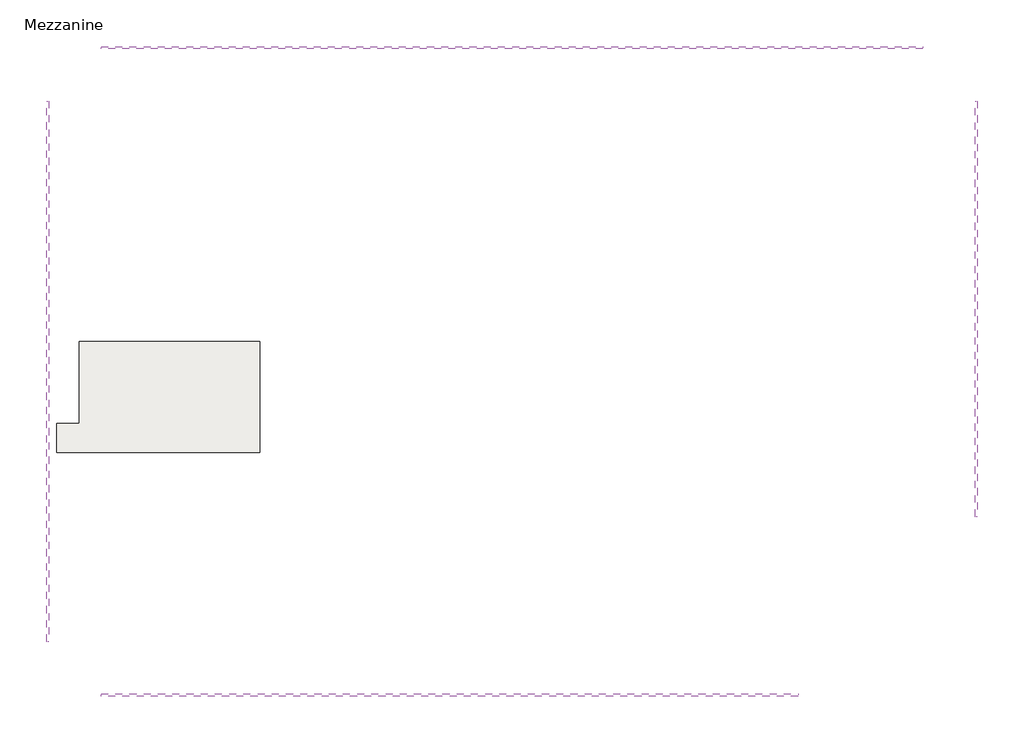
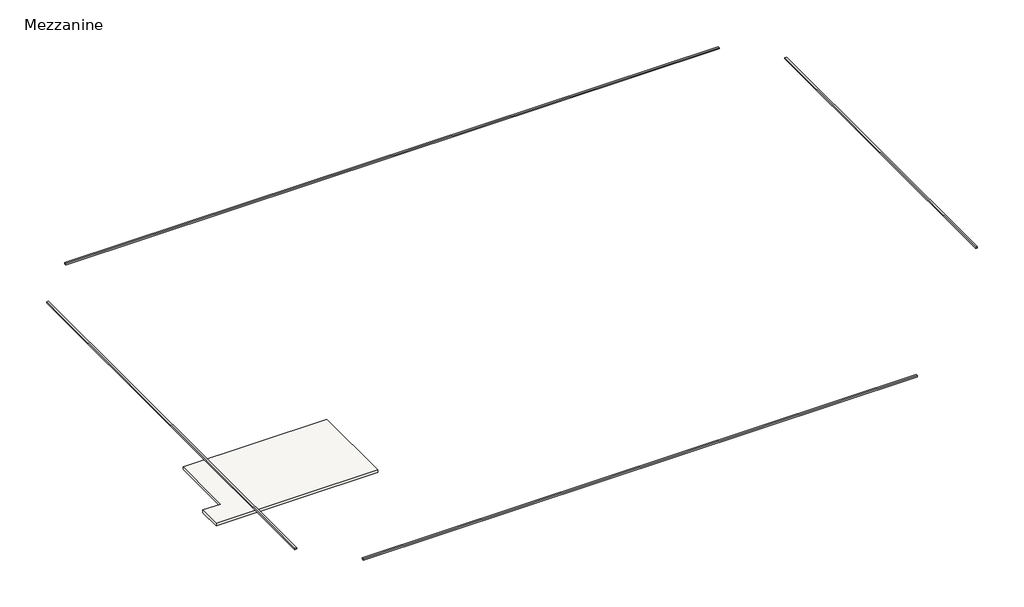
# One storey: 4 proxies, 1 slab.
"""IFC4 building model written with IfcOpenShell, lengths in millimetres."""

from ifc_helpers import new_model, si_unit, frame, origin, place, context, project, spatial, polyline, outline, extrude, element, save

model = new_model("IFC4")

# Units and contexts
model_context = context("Model", 3, world=origin())
ifc_project = project(units=[si_unit("LENGTHUNIT", "METRE", prefix="MILLI")], contexts=[model_context])

# Site, building, storey
site = spatial("IfcSite", under=ifc_project)
building = spatial("IfcBuilding", under=site)
storey = spatial("IfcBuildingStorey", under=building, Name="Mezzanine", Elevation=3500.0)

# Proxies
placement = place(None, origin())
element("IfcBuildingElementProxy", 1, Name="Reveals", at=placement, inside=storey, context=model_context, shape_type="SweptSolid", body=[
    extrude(outline(polyline([(10855.5272279, -14331.9313057), (10855.5272279, -14434.4313057), (-20031.4727721, -14434.4313057), (-20031.4727721, -14331.9313057), (10855.5272279, -14331.9313057)])), frame((0.0, 0.0, 7200.0), z_axis=(0.0, 0.0, 1.0), x_axis=(1.0, 0.0, 0.0)), (0.0, 0.0, 1.0), 75.0),
])
element("IfcBuildingElementProxy", 2, Name="Reveals", at=placement, inside=storey, context=model_context, shape_type="SweptSolid", body=[
    extrude(outline(polyline([(-22344.4727721, -12018.7313057), (-22446.9727721, -12018.7313057), (-22446.9727721, 11955.0686943), (-22344.4727721, 11955.0686943), (-22344.4727721, -12018.7313057)])), frame((0.0, 0.0, 7200.0), z_axis=(0.0, 0.0, 1.0), x_axis=(1.0, 0.0, 0.0)), (0.0, 0.0, 1.0), 75.0),
])
element("IfcBuildingElementProxy", 3, Name="Reveals", at=placement, inside=storey, context=model_context, shape_type="SweptSolid", body=[
    extrude(outline(polyline([(-20031.4727721, 14268.0686943), (-20031.4727721, 14370.5686943), (16392.5272279, 14370.5686943), (16392.5272279, 14268.0686943), (-20031.4727721, 14268.0686943)])), frame((0.0, 0.0, 7200.0), z_axis=(0.0, 0.0, 1.0), x_axis=(1.0, 0.0, 0.0)), (0.0, 0.0, 1.0), 75.0),
])
element("IfcBuildingElementProxy", 4, Name="Reveals", at=placement, inside=storey, context=model_context, shape_type="SweptSolid", body=[
    extrude(outline(polyline([(18705.5272279, 11955.0686943), (18808.0272279, 11955.0686943), (18808.0272279, -6481.9313057), (18705.5272279, -6481.9313057), (18705.5272279, 11955.0686943)])), frame((0.0, 0.0, 7200.0), z_axis=(0.0, 0.0, 1.0), x_axis=(1.0, 0.0, 0.0)), (0.0, 0.0, 1.0), 75.0),
])

# Slab
element("IfcSlab", 5, ObjectType="Generic 150mm", at=placement, inside=storey, context=model_context, shape_type="SweptSolid", body=[
    extrude(outline(polyline([(-21990.4727721, -3637.6813057), (-21990.4727721, -2337.6813057), (-20990.4727721, -2337.6813057), (-20990.4727721, 1287.1520298), (-12988.7227721, 1287.1520298), (-12988.7227721, -3637.6813057), (-21990.4727721, -3637.6813057)])), frame((0.0, 0.0, 3350.0), z_axis=(0.0, 0.0, 1.0), x_axis=(1.0, 0.0, 0.0)), (0.0, 0.0, 1.0), 150.0),
])

save(model, "model.ifc")
